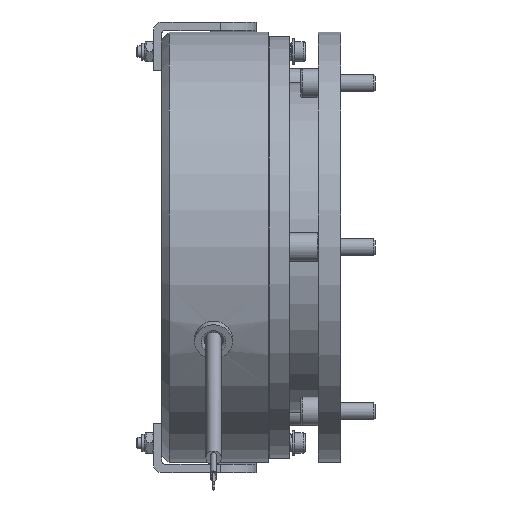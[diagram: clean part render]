
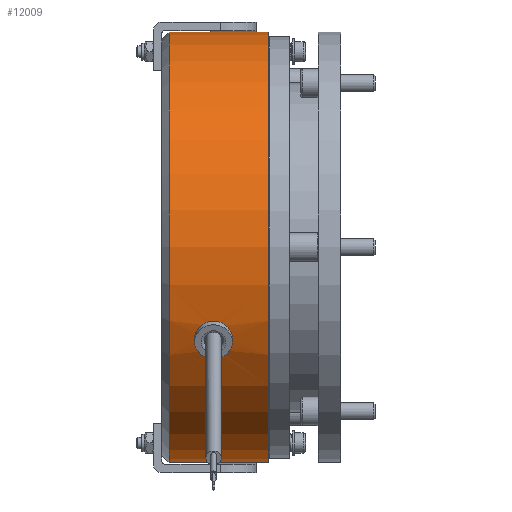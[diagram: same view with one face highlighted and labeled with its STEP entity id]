
A CAD part, front view. The second image highlights one B-rep face of the part: STEP entity #12009.
In plain terms, the highlighted cylindrical face has radius 75 mm (diameter 150 mm), a full revolution.
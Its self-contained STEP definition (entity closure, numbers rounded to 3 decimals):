
#329=B_SPLINE_CURVE_WITH_KNOTS('',3,(#22251,#22252,#22253,#22254,#22255,
#22256,#22257,#22258,#22259,#22260,#22261,#22262,#22263,#22264,#22265,#22266,
#22267,#22268),.UNSPECIFIED.,.F.,.F.,(4,2,2,2,2,2,2,2,4),(0.767,
0.959,1.151,1.343,1.535,1.726,
1.918,2.11,2.302),.UNSPECIFIED.);
#330=B_SPLINE_CURVE_WITH_KNOTS('',3,(#22271,#22272,#22273,#22274,#22275,
#22276,#22277,#22278,#22279,#22280,#22281,#22282,#22283,#22284,#22285,#22286,
#22287,#22288,#22289),.UNSPECIFIED.,.F.,.F.,(4,2,2,2,3,2,2,2,4),(2.302,
2.494,2.686,2.877,3.069,3.261,
3.452,3.644,3.836),.UNSPECIFIED.);
#664=CYLINDRICAL_SURFACE('',#13162,75.);
#866=FACE_BOUND('',#2688,.T.);
#1052=CIRCLE('',#12547,75.);
#1053=CIRCLE('',#12548,75.);
#1384=CIRCLE('',#13148,75.);
#1385=CIRCLE('',#13149,75.);
#1989=FACE_OUTER_BOUND('',#2687,.T.);
#2687=EDGE_LOOP('',(#9648,#9649,#9650,#9651,#9652,#9653));
#2688=EDGE_LOOP('',(#9654,#9655,#9656,#9657,#9658,#9659));
#3339=LINE('',#22246,#3963);
#3340=LINE('',#22249,#3964);
#3341=LINE('',#22270,#3965);
#3963=VECTOR('',#15805,75.);
#3964=VECTOR('',#15806,10.);
#3965=VECTOR('',#15807,10.);
#4609=VERTEX_POINT('',#19501);
#4610=VERTEX_POINT('',#19502);
#5141=VERTEX_POINT('',#22217);
#5142=VERTEX_POINT('',#22218);
#5152=VERTEX_POINT('',#22247);
#5153=VERTEX_POINT('',#22248);
#5154=VERTEX_POINT('',#22250);
#5155=VERTEX_POINT('',#22269);
#5943=EDGE_CURVE('',#4609,#4610,#1052,.T.);
#5944=EDGE_CURVE('',#4610,#4609,#1053,.T.);
#6715=EDGE_CURVE('',#5141,#5142,#1384,.T.);
#6716=EDGE_CURVE('',#5142,#5141,#1385,.T.);
#6730=EDGE_CURVE('',#4610,#5142,#3339,.T.);
#6731=EDGE_CURVE('',#5152,#5153,#3340,.T.);
#6732=EDGE_CURVE('',#5153,#5154,#329,.T.);
#6733=EDGE_CURVE('',#5154,#5155,#3341,.T.);
#6734=EDGE_CURVE('',#5154,#5153,#330,.T.);
#9648=ORIENTED_EDGE('',*,*,#5943,.F.);
#9649=ORIENTED_EDGE('',*,*,#5944,.F.);
#9650=ORIENTED_EDGE('',*,*,#6730,.T.);
#9651=ORIENTED_EDGE('',*,*,#6715,.F.);
#9652=ORIENTED_EDGE('',*,*,#6716,.F.);
#9653=ORIENTED_EDGE('',*,*,#6730,.F.);
#9654=ORIENTED_EDGE('',*,*,#6731,.F.);
#9655=ORIENTED_EDGE('',*,*,#6731,.T.);
#9656=ORIENTED_EDGE('',*,*,#6732,.T.);
#9657=ORIENTED_EDGE('',*,*,#6733,.T.);
#9658=ORIENTED_EDGE('',*,*,#6733,.F.);
#9659=ORIENTED_EDGE('',*,*,#6734,.T.);
#12009=ADVANCED_FACE('',(#1989,#866),#664,.T.);
#12547=AXIS2_PLACEMENT_3D('',#19503,#14324,#14325);
#12548=AXIS2_PLACEMENT_3D('',#19504,#14326,#14327);
#13148=AXIS2_PLACEMENT_3D('',#22219,#15772,#15773);
#13149=AXIS2_PLACEMENT_3D('',#22220,#15774,#15775);
#13162=AXIS2_PLACEMENT_3D('',#22245,#15803,#15804);
#14324=DIRECTION('center_axis',(1.,0.,0.));
#14325=DIRECTION('ref_axis',(0.,1.,0.));
#14326=DIRECTION('center_axis',(1.,0.,0.));
#14327=DIRECTION('ref_axis',(0.,1.,0.));
#15772=DIRECTION('center_axis',(-1.,0.,0.));
#15773=DIRECTION('ref_axis',(0.,-1.,0.));
#15774=DIRECTION('center_axis',(-1.,0.,0.));
#15775=DIRECTION('ref_axis',(0.,-1.,0.));
#15803=DIRECTION('center_axis',(1.,0.,0.));
#15804=DIRECTION('ref_axis',(0.,1.,0.));
#15805=DIRECTION('',(-1.,0.,0.));
#15806=DIRECTION('',(1.,0.,0.));
#15807=DIRECTION('',(1.,0.,0.));
#19501=CARTESIAN_POINT('',(0.,0.,-75.));
#19502=CARTESIAN_POINT('',(0.,-75.,0.));
#19503=CARTESIAN_POINT('Origin',(0.,0.,0.));
#19504=CARTESIAN_POINT('Origin',(0.,0.,0.));
#22217=CARTESIAN_POINT('',(-34.6,75.,0.));
#22218=CARTESIAN_POINT('',(-34.6,-75.,0.));
#22219=CARTESIAN_POINT('Origin',(-34.6,0.,0.));
#22220=CARTESIAN_POINT('Origin',(-34.6,0.,0.));
#22245=CARTESIAN_POINT('Origin',(-18.55,0.,0.));
#22246=CARTESIAN_POINT('',(-18.55,-75.,0.));
#22247=CARTESIAN_POINT('',(-25.7,-67.973,-31.696));
#22248=CARTESIAN_POINT('',(-24.2,-67.973,-31.696));
#22249=CARTESIAN_POINT('',(-26.,-67.973,-31.696));
#22250=CARTESIAN_POINT('',(-14.,-67.973,-31.696));
#22251=CARTESIAN_POINT('Ctrl Pts',(-24.2,-67.973,-31.696));
#22252=CARTESIAN_POINT('Ctrl Pts',(-24.2,-68.243,-31.117));
#22253=CARTESIAN_POINT('Ctrl Pts',(-24.071,-68.523,
-30.495));
#22254=CARTESIAN_POINT('Ctrl Pts',(-23.549,-69.024,-29.345));
#22255=CARTESIAN_POINT('Ctrl Pts',(-23.156,-69.244,
-28.818));
#22256=CARTESIAN_POINT('Ctrl Pts',(-22.249,-69.586,
-27.983));
#22257=CARTESIAN_POINT('Ctrl Pts',(-21.676,-69.73,
-27.62));
#22258=CARTESIAN_POINT('Ctrl Pts',(-20.421,-69.919,
-27.138));
#22259=CARTESIAN_POINT('Ctrl Pts',(-19.739,-69.964,
-27.019));
#22260=CARTESIAN_POINT('Ctrl Pts',(-18.461,-69.964,
-27.019));
#22261=CARTESIAN_POINT('Ctrl Pts',(-17.779,-69.919,
-27.138));
#22262=CARTESIAN_POINT('Ctrl Pts',(-16.524,-69.73,
-27.62));
#22263=CARTESIAN_POINT('Ctrl Pts',(-15.951,-69.586,
-27.983));
#22264=CARTESIAN_POINT('Ctrl Pts',(-15.044,-69.244,
-28.818));
#22265=CARTESIAN_POINT('Ctrl Pts',(-14.651,-69.024,-29.345));
#22266=CARTESIAN_POINT('Ctrl Pts',(-14.129,-68.523,
-30.495));
#22267=CARTESIAN_POINT('Ctrl Pts',(-14.,-68.243,-31.117));
#22268=CARTESIAN_POINT('Ctrl Pts',(-14.,-67.973,-31.696));
#22269=CARTESIAN_POINT('',(-12.5,-67.973,-31.696));
#22270=CARTESIAN_POINT('',(-18.55,-67.973,-31.696));
#22271=CARTESIAN_POINT('Ctrl Pts',(-14.,-67.973,-31.696));
#22272=CARTESIAN_POINT('Ctrl Pts',(-14.,-67.702,-32.277));
#22273=CARTESIAN_POINT('Ctrl Pts',(-14.129,-67.406,
-32.891));
#22274=CARTESIAN_POINT('Ctrl Pts',(-14.652,-66.846,
-34.014));
#22275=CARTESIAN_POINT('Ctrl Pts',(-15.046,-66.584,-34.523));
#22276=CARTESIAN_POINT('Ctrl Pts',(-15.953,-66.164,
-35.32));
#22277=CARTESIAN_POINT('Ctrl Pts',(-16.526,-65.979,
-35.663));
#22278=CARTESIAN_POINT('Ctrl Pts',(-17.78,-65.731,
-36.117));
#22279=CARTESIAN_POINT('Ctrl Pts',(-18.462,-65.67,
-36.228));
#22280=CARTESIAN_POINT('Ctrl Pts',(-19.1,-65.67,-36.228));
#22281=CARTESIAN_POINT('Ctrl Pts',(-19.739,-65.67,
-36.228));
#22282=CARTESIAN_POINT('Ctrl Pts',(-20.421,-65.731,
-36.117));
#22283=CARTESIAN_POINT('Ctrl Pts',(-21.676,-65.979,
-35.662));
#22284=CARTESIAN_POINT('Ctrl Pts',(-22.249,-66.165,-35.319));
#22285=CARTESIAN_POINT('Ctrl Pts',(-23.156,-66.585,-34.52));
#22286=CARTESIAN_POINT('Ctrl Pts',(-23.549,-66.847,-34.012));
#22287=CARTESIAN_POINT('Ctrl Pts',(-24.071,-67.406,
-32.89));
#22288=CARTESIAN_POINT('Ctrl Pts',(-24.2,-67.703,-32.276));
#22289=CARTESIAN_POINT('Ctrl Pts',(-24.2,-67.973,-31.696));
